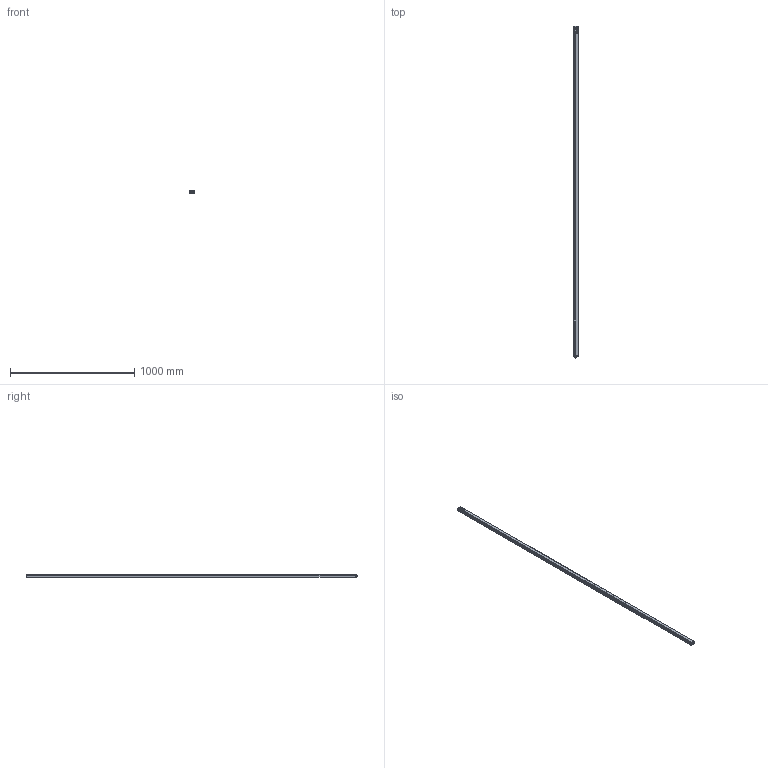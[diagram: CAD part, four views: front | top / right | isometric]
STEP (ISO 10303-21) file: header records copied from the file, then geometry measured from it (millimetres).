
FILE_DESCRIPTION(/* description */ (''),/* implementation_level */ '2;1');
FILE_NAME(/* name */ 'C:\Users\andre\SynologyDrive\Optoscan\Libreria Componenti\00 - Barriere\Barriera sorgente\Argo_2640_TX.stp',/* time_stamp */ '2021-04-23T12:44:45+02:00',/* author */ ('andre'),/* organization */ (''),/* preprocessor_version */ 'ST-DEVELOPER v18',/* originating_system */ 'Autodesk Inventor 2020',/* authorisation */ '');
FILE_SCHEMA (('AUTOMOTIVE_DESIGN { 1 0 10303 214 3 1 1 }'));
Length unit declared in the file: millimetre
Products named in the file (1): Argo_2640_TX
Bounding box: 40.5 x 2673.3 x 20.75 mm (x, y, z)
Volume: 525246.3 mm3; surface area: 693690.9 mm2
Topology: 1 solids, 1 shells, 696 faces, 1911 edges, 1225 vertices
Faces by surface type: plane 321, cylinder 195, bspline 94, torus 72, cone 8, sphere 6
Full cylindrical faces by diameter (mm): 1 x4, 2.459 x4, 2.5 x4, 3 x4, 3.5 x4, 5.5 x4, 8 x1, 10.5 x2, 11.75 x9, 15.7 x1, 17.5 x1
Entity records: 30761 total; most frequent: CARTESIAN_POINT 12670, ORIENTED_EDGE 3806, DIRECTION 3415, EDGE_CURVE 1903, VERTEX_POINT 1225, AXIS2_PLACEMENT_3D 1193, LINE 1029, VECTOR 1029
